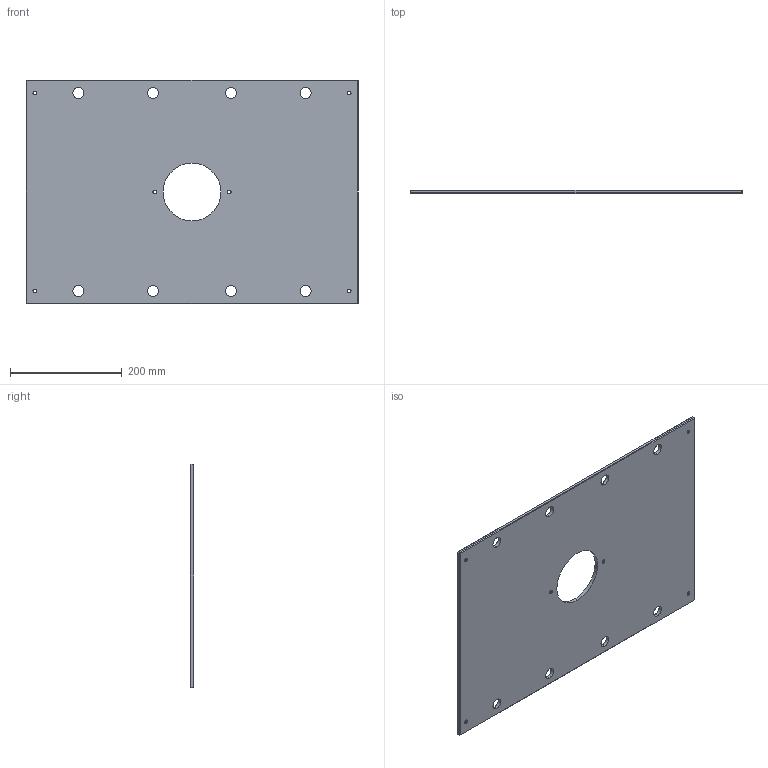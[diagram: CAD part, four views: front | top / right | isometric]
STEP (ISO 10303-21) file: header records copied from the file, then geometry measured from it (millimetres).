
FILE_DESCRIPTION (( 'STEP AP214' ), '1' );
FILE_NAME ('ME-0619-CH-1623.STEP', '2020-02-11T16:44:25', ( '' ), ( '' ), 'SwSTEP 2.0', 'SolidWorks 2018', '' );
FILE_SCHEMA (( 'AUTOMOTIVE_DESIGN' ));
Length unit declared in the file: inch
Products named in the file (1): ME-0619-CH-1623
Bounding box: 593.73 x 6.35 x 400.05 mm (x, y, z)
Volume: 1433501.2 mm3; surface area: 468468.8 mm2
Topology: 1 solids, 1 shells, 68 faces, 162 edges, 96 vertices
Faces by surface type: cylinder 30, plane 26, cone 12
Entity records: 2050 total; most frequent: DIRECTION 372, CARTESIAN_POINT 327, ORIENTED_EDGE 324, EDGE_CURVE 162, AXIS2_PLACEMENT_3D 141, EDGE_LOOP 98, VERTEX_POINT 96, VECTOR 90
